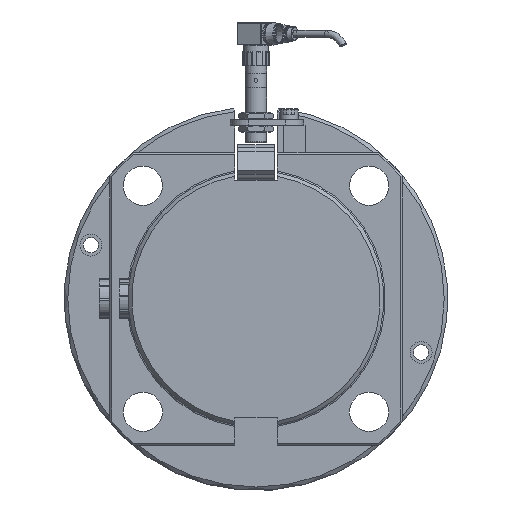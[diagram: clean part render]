
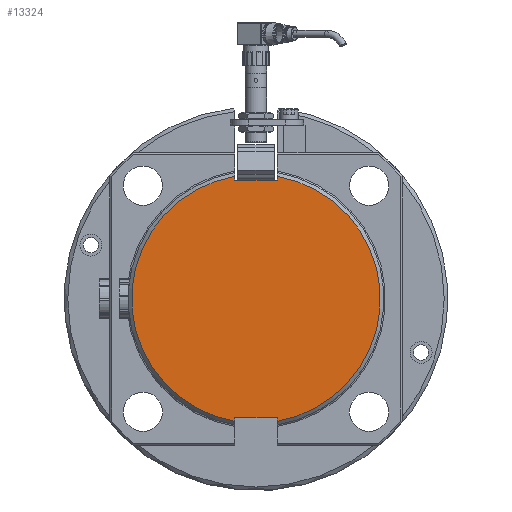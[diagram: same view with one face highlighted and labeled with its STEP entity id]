
A CAD part, left-side view. The second image highlights one B-rep face of the part: STEP entity #13324.
In plain terms, the highlighted planar face has unit normal (-1, 0, 0).
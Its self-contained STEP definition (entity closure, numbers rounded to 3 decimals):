
#1096=FACE_OUTER_BOUND('',#1857,.T.);
#1857=EDGE_LOOP('',(#9507,#9508,#9509,#9510,#9511,#9512,#9513,#9514));
#2658=LINE('',#21890,#3433);
#2659=LINE('',#21892,#3434);
#2660=LINE('',#21893,#3435);
#2661=LINE('',#21895,#3436);
#2662=LINE('',#21897,#3437);
#2663=LINE('',#21898,#3438);
#3433=VECTOR('',#16924,10.);
#3434=VECTOR('',#16925,10.);
#3435=VECTOR('',#16926,10.);
#3436=VECTOR('',#16927,10.);
#3437=VECTOR('',#16928,10.);
#3438=VECTOR('',#16929,10.);
#4252=CIRCLE('',#14402,68.);
#4254=CIRCLE('',#14405,68.);
#5370=VERTEX_POINT('',#21867);
#5371=VERTEX_POINT('',#21871);
#5373=VERTEX_POINT('',#21879);
#5374=VERTEX_POINT('',#21883);
#5375=VERTEX_POINT('',#21889);
#5376=VERTEX_POINT('',#21891);
#5377=VERTEX_POINT('',#21894);
#5378=VERTEX_POINT('',#21896);
#6911=EDGE_CURVE('',#5370,#5371,#4252,.T.);
#6916=EDGE_CURVE('',#5374,#5373,#4254,.T.);
#6917=EDGE_CURVE('',#5370,#5375,#2658,.T.);
#6918=EDGE_CURVE('',#5375,#5376,#2659,.T.);
#6919=EDGE_CURVE('',#5376,#5373,#2660,.T.);
#6920=EDGE_CURVE('',#5374,#5377,#2661,.T.);
#6921=EDGE_CURVE('',#5377,#5378,#2662,.T.);
#6922=EDGE_CURVE('',#5378,#5371,#2663,.T.);
#9507=ORIENTED_EDGE('',*,*,#6917,.T.);
#9508=ORIENTED_EDGE('',*,*,#6918,.T.);
#9509=ORIENTED_EDGE('',*,*,#6919,.T.);
#9510=ORIENTED_EDGE('',*,*,#6916,.F.);
#9511=ORIENTED_EDGE('',*,*,#6920,.T.);
#9512=ORIENTED_EDGE('',*,*,#6921,.T.);
#9513=ORIENTED_EDGE('',*,*,#6922,.T.);
#9514=ORIENTED_EDGE('',*,*,#6911,.F.);
#12157=PLANE('',#14406);
#13324=ADVANCED_FACE('',(#1096),#12157,.T.);
#14402=AXIS2_PLACEMENT_3D('',#21872,#16914,#16915);
#14405=AXIS2_PLACEMENT_3D('',#21887,#16920,#16921);
#14406=AXIS2_PLACEMENT_3D('',#21888,#16922,#16923);
#16914=DIRECTION('center_axis',(1.,0.,0.));
#16915=DIRECTION('ref_axis',(0.,-1.,0.));
#16920=DIRECTION('center_axis',(1.,0.,0.));
#16921=DIRECTION('ref_axis',(0.,-1.,0.));
#16922=DIRECTION('center_axis',(-1.,0.,0.));
#16923=DIRECTION('ref_axis',(0.,0.,
1.));
#16924=DIRECTION('',(0.,0.,1.));
#16925=DIRECTION('',(0.,-1.,0.));
#16926=DIRECTION('',(0.,0.,-1.));
#16927=DIRECTION('',(0.,0.,-1.));
#16928=DIRECTION('',(0.,1.,0.));
#16929=DIRECTION('',(0.,0.,1.));
#21867=CARTESIAN_POINT('',(132.889,-52.125,-31.955));
#21871=CARTESIAN_POINT('',(132.889,-52.125,102.086));
#21872=CARTESIAN_POINT('Origin',(132.889,-63.625,35.065));
#21879=CARTESIAN_POINT('',(132.889,-75.125,-31.955));
#21883=CARTESIAN_POINT('',(132.889,-75.125,102.086));
#21887=CARTESIAN_POINT('Origin',(132.889,-63.625,35.065));
#21888=CARTESIAN_POINT('Origin',(132.889,-28.625,35.065));
#21889=CARTESIAN_POINT('',(132.889,-52.125,-29.935));
#21890=CARTESIAN_POINT('',(132.889,-52.125,-4.935));
#21891=CARTESIAN_POINT('',(132.889,-75.125,-29.935));
#21892=CARTESIAN_POINT('',(132.889,-40.375,-29.935));
#21893=CARTESIAN_POINT('',(132.889,-75.125,2.565));
#21894=CARTESIAN_POINT('',(132.889,-75.125,100.065));
#21895=CARTESIAN_POINT('',(132.889,-75.125,75.065));
#21896=CARTESIAN_POINT('',(132.889,-52.125,100.065));
#21897=CARTESIAN_POINT('',(132.889,-51.875,100.065));
#21898=CARTESIAN_POINT('',(132.889,-52.125,67.565));
